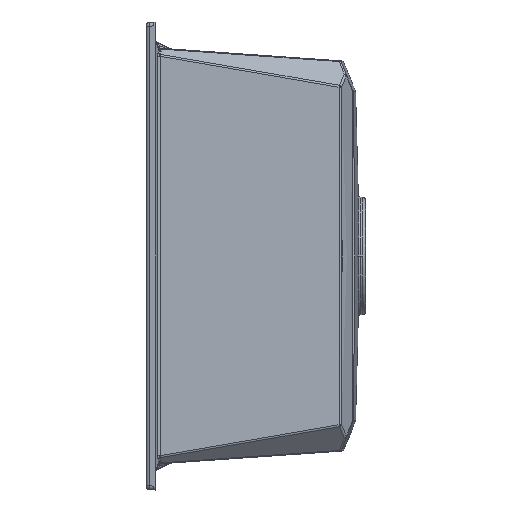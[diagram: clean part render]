
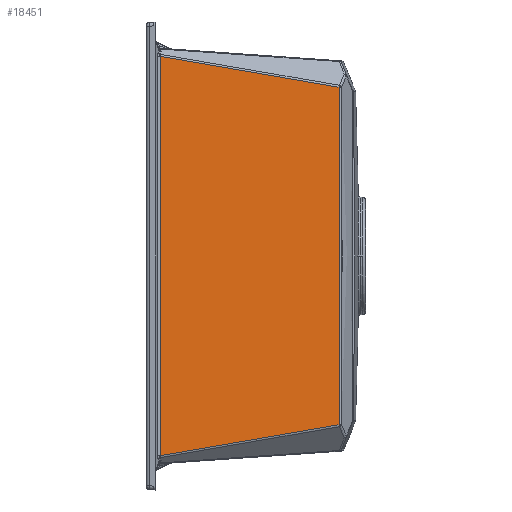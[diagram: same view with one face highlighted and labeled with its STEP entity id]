
A CAD part, left-side view. The second image highlights one B-rep face of the part: STEP entity #18451.
In plain terms, the highlighted planar face has unit normal (-0.998, -0.07, 0).
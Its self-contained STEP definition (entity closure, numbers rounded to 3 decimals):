
#182 = LINE ( 'NONE', #41503, #39711 ) ;
#1142 = CARTESIAN_POINT ( 'NONE',  ( 41.434, -196.69, -370.215 ) ) ;
#2606 = AXIS2_PLACEMENT_3D ( 'NONE', #22441, #38870, #39183 ) ;
#3304 = ORIENTED_EDGE ( 'NONE', *, *, #12955, .T. ) ;
#4878 = CARTESIAN_POINT ( 'NONE',  ( 41.483, -197.399, -310.107 ) ) ;
#6371 = EDGE_LOOP ( 'NONE', ( #42655, #3304, #32866, #16107 ) ) ;
#7578 = VECTOR ( 'NONE', #33191, 1000. ) ;
#8272 = CARTESIAN_POINT ( 'NONE',  ( 41.363, -195.678, -69.687 ) ) ;
#8605 = CARTESIAN_POINT ( 'NONE',  ( 27.994, -4.492, -463.313 ) ) ;
#11585 = LINE ( 'NONE', #19486, #34522 ) ;
#12955 = EDGE_CURVE ( 'NONE', #18660, #40670, #11585, .T. ) ;
#15033 = FACE_OUTER_BOUND ( 'NONE', #6371, .T. ) ;
#15305 = CARTESIAN_POINT ( 'NONE',  ( 41.363, -195.678, -69.687 ) ) ;
#16107 = ORIENTED_EDGE ( 'NONE', *, *, #31863, .F. ) ;
#18451 = ADVANCED_FACE ( 'NONE', ( #15033 ), #35880, .T. ) ;
#18660 = VERTEX_POINT ( 'NONE', #27516 ) ;
#19486 = CARTESIAN_POINT ( 'NONE',  ( 27.994, -4.492, -465. ) ) ;
#22441 = CARTESIAN_POINT ( 'NONE',  ( 27.019, 9.442, -465. ) ) ;
#27516 = CARTESIAN_POINT ( 'NONE',  ( 27.994, -4.492, -36.687 ) ) ;
#28454 = CARTESIAN_POINT ( 'NONE',  ( 41.434, -196.69, -129.787 ) ) ;
#31041 = LINE ( 'NONE', #33474, #7578 ) ;
#31863 = EDGE_CURVE ( 'NONE', #36871, #43798, #36044, .T. ) ;
#32866 = ORIENTED_EDGE ( 'NONE', *, *, #40071, .F. ) ;
#33191 = DIRECTION ( 'NONE',  ( 0.069, -0.983, -0.17 ) ) ;
#33474 = CARTESIAN_POINT ( 'NONE',  ( 32.044, -62.41, -46.684 ) ) ;
#34522 = VECTOR ( 'NONE', #43535, 1000. ) ;
#34758 = DIRECTION ( 'NONE',  ( -0.069, 0.983, -0.17 ) ) ;
#34909 = CARTESIAN_POINT ( 'NONE',  ( 41.363, -195.678, -430.313 ) ) ;
#35317 = CARTESIAN_POINT ( 'NONE',  ( 41.483, -197.399, -189.892 ) ) ;
#35880 = PLANE ( 'NONE',  #2606 ) ;
#36044 = B_SPLINE_CURVE_WITH_KNOTS ( 'NONE', 3,
 ( #15305, #28454, #35317, #4878, #1142, #42200 ),
 .UNSPECIFIED., .F., .F.,
 ( 4, 2, 4 ),
 ( 0., 0.5, 1. ),
 .UNSPECIFIED. ) ;
#36315 = EDGE_CURVE ( 'NONE', #18660, #36871, #31041, .T. ) ;
#36871 = VERTEX_POINT ( 'NONE', #8272 ) ;
#38870 = DIRECTION ( 'NONE',  ( -0.998, -0.07, 0. ) ) ;
#39183 = DIRECTION ( 'NONE',  ( 0.07, -0.998, 0. ) ) ;
#39711 = VECTOR ( 'NONE', #34758, 1000. ) ;
#40071 = EDGE_CURVE ( 'NONE', #43798, #40670, #182, .T. ) ;
#40670 = VERTEX_POINT ( 'NONE', #8605 ) ;
#41503 = CARTESIAN_POINT ( 'NONE',  ( 27.464, 3.091, -464.622 ) ) ;
#42200 = CARTESIAN_POINT ( 'NONE',  ( 41.363, -195.678, -430.313 ) ) ;
#42655 = ORIENTED_EDGE ( 'NONE', *, *, #36315, .F. ) ;
#43535 = DIRECTION ( 'NONE',  ( 0., 0., -1. ) ) ;
#43798 = VERTEX_POINT ( 'NONE', #34909 ) ;
